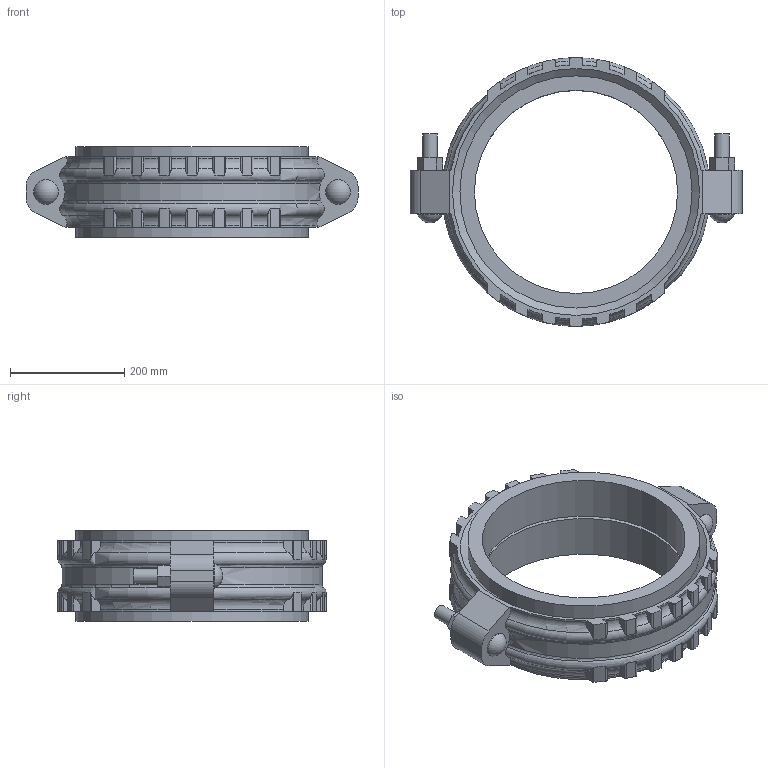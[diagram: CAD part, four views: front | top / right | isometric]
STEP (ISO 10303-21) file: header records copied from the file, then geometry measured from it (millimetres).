
FILE_DESCRIPTION(/* description */ ('VIC COUPLING FLEX STYLE W77 AGS VIC-RING ','CAx-IF Rec.Pracs.---Representation and Presentation of Product Manufacturing Information (PMI)---4.0---2014-10-13'),/* implementation_level */ '2;1');
FILE_NAME(/* name */ 'C:\Users\Vjadhav\AppData\Roaming\Autodesk\ApplicationPlugins\Victaulic.Temp\A52\Victaulic_Vic-Ring_Coupling Flexible_Style W77 (AGR)_16 (400).stp',/* time_stamp */ '2021-12-20T11:04:44+06:00',/* author */ ('Vjadhav'),/* organization */ ('Victaulic'),/* preprocessor_version */ 'ST-DEVELOPER v17.2',/* originating_system */ 'Autodesk Inventor 2019',/* authorisation */ '');
FILE_SCHEMA (('AP242_MANAGED_MODEL_BASED_3D_ENGINEERING_MIM_LF { 1 0 10303 442 1 1 4 }'));
Length unit declared in the file: inch
Products named in the file (3): W77 VR-16.0; W77 VR-16.0_1; W77 VR-16.0_2
Assembly tree (3 placements, depth 2):
  W77 VR-16.0
    W77 VR-16.0_1
    W77 VR-16.0_2  x2
Bounding box: 581.15 x 469.87 x 157.99 mm (x, y, z)
Volume: 9877052.5 mm3; surface area: 998854.7 mm2
Topology: 3 solids, 5 shells, 285 faces, 937 edges, 614 vertices
Faces by surface type: cylinder 171, plane 98, torus 12, sphere 2, cone 2
Full cylindrical faces by diameter (mm): 25.4 x4, 42.85 x2, 355.6 x2, 387.35 x1, 406.4 x4
Entity records: 12321 total; most frequent: CARTESIAN_POINT 3784, ORIENTED_EDGE 1854, DIRECTION 1643, EDGE_CURVE 927, AXIS2_PLACEMENT_3D 625, VERTEX_POINT 606, LINE 393, VECTOR 393
